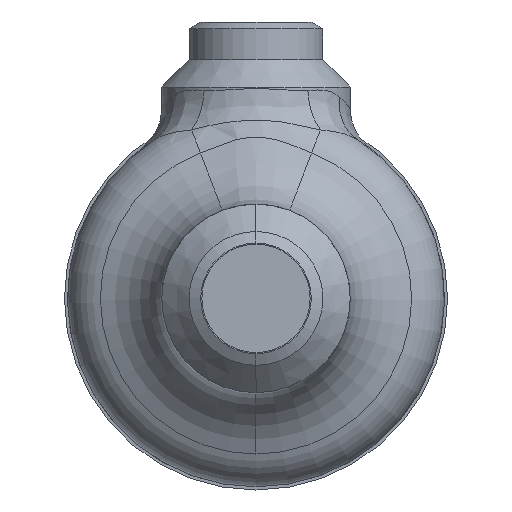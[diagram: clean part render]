
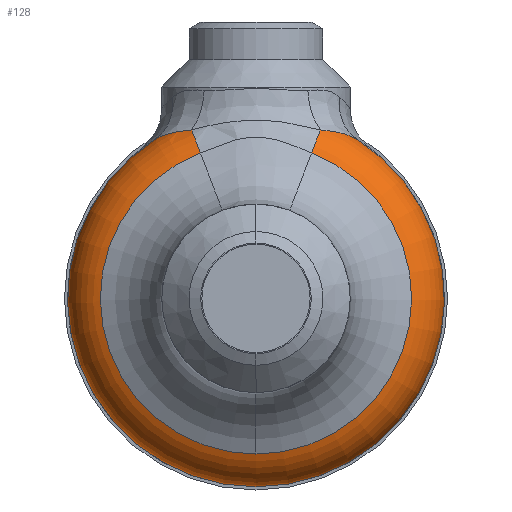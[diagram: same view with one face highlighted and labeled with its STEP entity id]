
A CAD part, front view. The second image highlights one B-rep face of the part: STEP entity #128.
In plain terms, the highlighted toroidal (fillet/blend) face has major radius 22 mm and minor radius 8 mm.
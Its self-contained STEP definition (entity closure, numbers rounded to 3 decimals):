
#120 = CARTESIAN_POINT ( 'NONE',  ( 0., -47., -30. ) ) ;
#128 = ADVANCED_FACE ( 'NONE', ( #9980 ), #9981, .T. ) ;
#963 = B_SPLINE_CURVE_WITH_KNOTS ( 'NONE', 3,
 ( #964, #965, #966, #967, #968, #969, #970, #971, #972, #973 ),
 .UNSPECIFIED., .F., .F.,
 ( 4, 2, 2, 2, 4 ),
 ( 0., 0.004, 0.005, 0.006, 0.008 ),
 .UNSPECIFIED. ) ;
#964 = CARTESIAN_POINT ( 'NONE',  ( -10.252, -51.355, 26.818 ) ) ;
#965 = CARTESIAN_POINT ( 'NONE',  ( -11.417, -50.852, 26.722 ) ) ;
#966 = CARTESIAN_POINT ( 'NONE',  ( -12.51, -50.241, 26.575 ) ) ;
#967 = CARTESIAN_POINT ( 'NONE',  ( -13.764, -49.322, 26.272 ) ) ;
#968 = CARTESIAN_POINT ( 'NONE',  ( -14.01, -49.13, 26.205 ) ) ;
#969 = CARTESIAN_POINT ( 'NONE',  ( -14.485, -48.733, 26.058 ) ) ;
#970 = CARTESIAN_POINT ( 'NONE',  ( -14.714, -48.529, 25.979 ) ) ;
#971 = CARTESIAN_POINT ( 'NONE',  ( -15.376, -47.901, 25.718 ) ) ;
#972 = CARTESIAN_POINT ( 'NONE',  ( -15.783, -47.46, 25.517 ) ) ;
#973 = CARTESIAN_POINT ( 'NONE',  ( -16.155, -47., 25.279 ) ) ;
#1577 = ORIENTED_EDGE ( 'NONE', *, *, #10013, .T. ) ;
#2070 = EDGE_CURVE ( 'NONE', #6151, #9898, #15121, .T. ) ;
#2089 = ORIENTED_EDGE ( 'NONE', *, *, #12274, .F. ) ;
#2423 = ORIENTED_EDGE ( 'NONE', *, *, #2070, .T. ) ;
#2582 = EDGE_CURVE ( 'NONE', #10853, #12063, #963, .T. ) ;
#2900 = ORIENTED_EDGE ( 'NONE', *, *, #2582, .T. ) ;
#3550 = CARTESIAN_POINT ( 'NONE',  ( -8.849, -54.5, 23.149 ) ) ;
#3743 = CIRCLE ( 'NONE', #3744, 8. ) ;
#3744 = AXIS2_PLACEMENT_3D ( 'NONE', #3745, #3746, #3747 ) ;
#3745 = CARTESIAN_POINT ( 'NONE',  ( -7.856, -47., 20.55 ) ) ;
#3746 = DIRECTION ( 'NONE',  ( -0.934, 0., -0.357 ) ) ;
#3747 = DIRECTION ( 'NONE',  ( -0.357, 0., 0.934 ) ) ;
#4004 = CARTESIAN_POINT ( 'NONE',  ( 16.155, -47., 25.279 ) ) ;
#4324 = VERTEX_POINT ( 'NONE', #5706 ) ;
#4496 = EDGE_CURVE ( 'NONE', #4324, #5095, #6918, .T. ) ;
#5095 = VERTEX_POINT ( 'NONE', #8532 ) ;
#5307 = EDGE_CURVE ( 'NONE', #5095, #6151, #8589, .T. ) ;
#5706 = CARTESIAN_POINT ( 'NONE',  ( 10.252, -51.355, 26.818 ) ) ;
#5761 = B_SPLINE_CURVE_WITH_KNOTS ( 'NONE', 3,
 ( #5762, #5763, #5767, #5768, #5769, #5770 ),
 .UNSPECIFIED., .F., .F.,
 ( 4, 2, 4 ),
 ( 0., 0.004, 0.008 ),
 .UNSPECIFIED. ) ;
#5762 = CARTESIAN_POINT ( 'NONE',  ( 16.155, -47., 25.279 ) ) ;
#5763 = CARTESIAN_POINT ( 'NONE',  ( 15.41, -47.92, 25.755 ) ) ;
#5767 = CARTESIAN_POINT ( 'NONE',  ( 14.53, -48.759, 26.086 ) ) ;
#5768 = CARTESIAN_POINT ( 'NONE',  ( 12.515, -50.238, 26.574 ) ) ;
#5769 = CARTESIAN_POINT ( 'NONE',  ( 11.417, -50.852, 26.722 ) ) ;
#5770 = CARTESIAN_POINT ( 'NONE',  ( 10.252, -51.355, 26.818 ) ) ;
#6151 = VERTEX_POINT ( 'NONE', #13046 ) ;
#6918 = CIRCLE ( 'NONE', #6919, 8. ) ;
#6919 = AXIS2_PLACEMENT_3D ( 'NONE', #6920, #6921, #6922 ) ;
#6920 = CARTESIAN_POINT ( 'NONE',  ( 7.856, -47., 20.55 ) ) ;
#6921 = DIRECTION ( 'NONE',  ( 0.934, 0., -0.357 ) ) ;
#6922 = DIRECTION ( 'NONE',  ( 0.357, 0., 0.934 ) ) ;
#7865 = ORIENTED_EDGE ( 'NONE', *, *, #5307, .T. ) ;
#8198 = ORIENTED_EDGE ( 'NONE', *, *, #4496, .T. ) ;
#8285 = CARTESIAN_POINT ( 'NONE',  ( -10.252, -51.355, 26.818 ) ) ;
#8532 = CARTESIAN_POINT ( 'NONE',  ( 8.849, -54.5, 23.149 ) ) ;
#8589 = CIRCLE ( 'NONE', #8590, 24.783 ) ;
#8590 = AXIS2_PLACEMENT_3D ( 'NONE', #8591, #8592, #8593 ) ;
#8591 = CARTESIAN_POINT ( 'NONE',  ( 0., -54.5, 0. ) ) ;
#8592 = DIRECTION ( 'NONE',  ( 0., 1., 0. ) ) ;
#8593 = DIRECTION ( 'NONE',  ( 0., 0., 1. ) ) ;
#8622 = VERTEX_POINT ( 'NONE', #4004 ) ;
#8856 = EDGE_CURVE ( 'NONE', #8622, #4324, #5761, .T. ) ;
#9032 = EDGE_CURVE ( 'NONE', #8622, #9788, #9915, .T. ) ;
#9204 = ORIENTED_EDGE ( 'NONE', *, *, #8856, .T. ) ;
#9399 = CARTESIAN_POINT ( 'NONE',  ( -16.155, -47., 25.279 ) ) ;
#9788 = VERTEX_POINT ( 'NONE', #120 ) ;
#9898 = VERTEX_POINT ( 'NONE', #3550 ) ;
#9915 = CIRCLE ( 'NONE', #9916, 30. ) ;
#9916 = AXIS2_PLACEMENT_3D ( 'NONE', #9917, #9918, #9919 ) ;
#9917 = CARTESIAN_POINT ( 'NONE',  ( 0., -47., 0. ) ) ;
#9918 = DIRECTION ( 'NONE',  ( 0., 1., 0. ) ) ;
#9919 = DIRECTION ( 'NONE',  ( 0., 0., 1. ) ) ;
#9980 = FACE_OUTER_BOUND ( 'NONE', #15158, .T. ) ;
#9981 = TOROIDAL_SURFACE ( 'NONE', #9982, 22., 8. ) ;
#9982 = AXIS2_PLACEMENT_3D ( 'NONE', #9983, #9984, #9985 ) ;
#9983 = CARTESIAN_POINT ( 'NONE',  ( 0., -47., 0. ) ) ;
#9984 = DIRECTION ( 'NONE',  ( 0., 1., 0. ) ) ;
#9985 = DIRECTION ( 'NONE',  ( 0., 0., 1. ) ) ;
#10013 = EDGE_CURVE ( 'NONE', #9898, #10853, #3743, .T. ) ;
#10778 = CIRCLE ( 'NONE', #10779, 30. ) ;
#10779 = AXIS2_PLACEMENT_3D ( 'NONE', #10780, #10781, #10782 ) ;
#10780 = CARTESIAN_POINT ( 'NONE',  ( 0., -47., 0. ) ) ;
#10781 = DIRECTION ( 'NONE',  ( 0., 1., 0. ) ) ;
#10782 = DIRECTION ( 'NONE',  ( 0., 0., 1. ) ) ;
#10853 = VERTEX_POINT ( 'NONE', #8285 ) ;
#12063 = VERTEX_POINT ( 'NONE', #9399 ) ;
#12274 = EDGE_CURVE ( 'NONE', #9788, #12063, #10778, .T. ) ;
#13046 = CARTESIAN_POINT ( 'NONE',  ( 0., -54.5, -24.783 ) ) ;
#14665 = ORIENTED_EDGE ( 'NONE', *, *, #9032, .F. ) ;
#15121 = CIRCLE ( 'NONE', #15122, 24.783 ) ;
#15122 = AXIS2_PLACEMENT_3D ( 'NONE', #15123, #15124, #15125 ) ;
#15123 = CARTESIAN_POINT ( 'NONE',  ( 0., -54.5, 0. ) ) ;
#15124 = DIRECTION ( 'NONE',  ( 0., 1., 0. ) ) ;
#15125 = DIRECTION ( 'NONE',  ( 0., 0., 1. ) ) ;
#15158 = EDGE_LOOP ( 'NONE', ( #14665, #9204, #8198, #7865, #2423, #1577, #2900, #2089 ) ) ;
